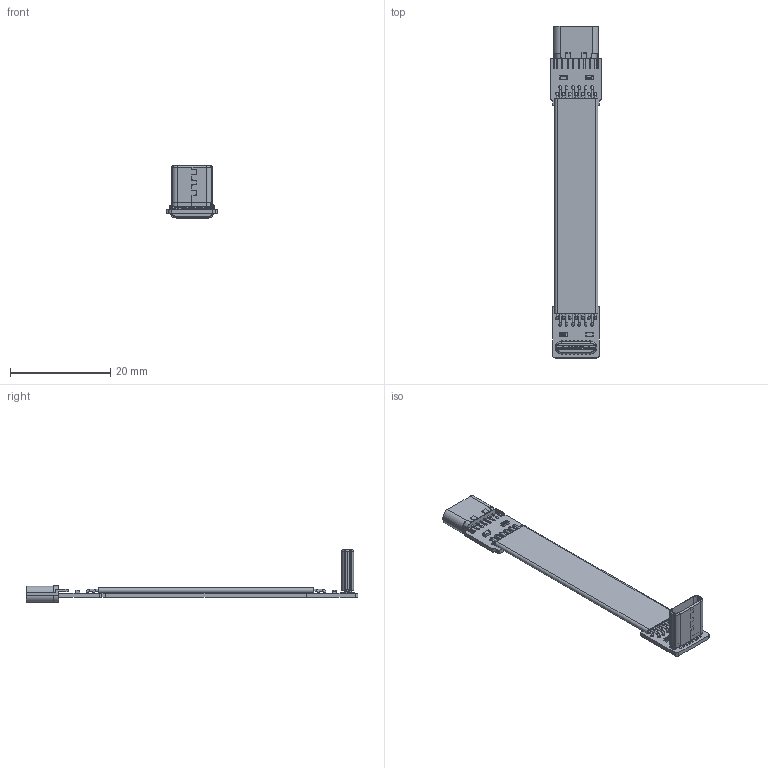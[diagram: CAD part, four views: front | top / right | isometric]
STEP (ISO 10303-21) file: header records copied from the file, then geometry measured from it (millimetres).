
FILE_DESCRIPTION(('Open CASCADE Model'),'2;1');
FILE_NAME('Open CASCADE Shape Model','2023-07-11T15:53:19',('Author'),( 'Open CASCADE'),'Open CASCADE STEP processor 6.8','Open CASCADE 6.8' ,'Unknown');
FILE_SCHEMA(('AUTOMOTIVE_DESIGN { 1 0 10303 214 1 1 1 1 }'));
Length unit declared in the file: millimetre
Products named in the file (46): PCB; Board; Open CASCADE STEP translator 6.8 6.1.1; Open CASCADE STEP translator 6.8 6.2; C0603_060; Designator12; T4D-3D-5_20211026; Open CASCADE STEP translator 6.8 6.4; 0603_RES; Capsule; Encapsulation; TopCover; _1; Designator11; TYPE-C16_H=8.65_20230625(1); Free-Models; cable13-US2A
Assembly tree (50 placements, depth 4):
  PCB
    Board
      Open CASCADE STEP translator 6.8 6.1.1
    Open CASCADE STEP translator 6.8 6.2
      C0603_060
      C0603_060
      C0603_060
    Designator12
      T4D-3D-5_20211026
    Open CASCADE STEP translator 6.8 6.4
      0603_RES
        Capsule
        Encapsulation  x2
        TopCover
    _1
      C0603_060
      C0603_060
      C0603_060
    Designator11
      TYPE-C16_H=8.65_20230625(1)
    _1
      0603_RES
        Capsule
        Encapsulation  x2
        TopCover
    Free-Models
      cable13-US2A
      cable13-US2A
      cable13-US2A
      cable13-US2A
      cable13-US2A
      cable13-US2A
      cable13-US2A
      cable13-US2A
      cable13-US2A
      cable13-US2A
      cable13-US2A
      cable13-US2A
      cable13-US2A
      cable13-US2A
      cable13-US2A
      cable13-US2A
      cable13-US2A
      cable13-US2A
      cable13-US2A
      cable13-US2A
      cable13-US2A
      cable13-US2A
      cable13-US2A
      cable13-US2A
      cable13-US2A
      cable13-US2A
      cable13-US2A
Bounding box: 10.08 x 66.16 x 10.4 mm (x, y, z)
Volume: 625.7 mm3; surface area: 3327.3 mm2
Topology: 105 solids, 105 shells, 1946 faces, 5008 edges, 3280 vertices
Faces by surface type: plane 1192, cylinder 534, bspline 172, torus 32, sphere 16
Full cylindrical faces by diameter (mm): 0.4 x65, 0.55 x26
Entity records: 64455 total; most frequent: CARTESIAN_POINT 12789, ORIENTED_EDGE 9132, DIRECTION 8599, EDGE_CURVE 4566, LINE 3191, VECTOR 3191, VERTEX_POINT 3004, AXIS2_PLACEMENT_3D 2704
